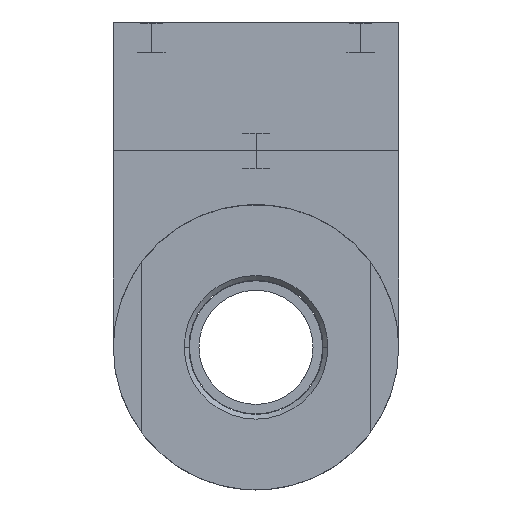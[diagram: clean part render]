
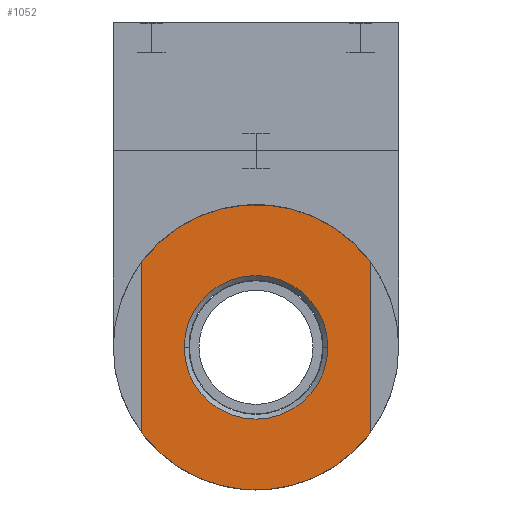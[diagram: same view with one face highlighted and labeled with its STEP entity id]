
A CAD part, front view. The second image highlights one B-rep face of the part: STEP entity #1052.
In plain terms, the highlighted planar face has unit normal (0, -1, 0) as drawn and (0, 0, 1) by its records, which use the part's own axes.
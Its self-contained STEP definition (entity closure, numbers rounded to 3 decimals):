
#1052=ADVANCED_FACE('1:1855',(#2146,#2147),#2148,.T.);
#2146=FACE_OUTER_BOUND('',#3367,.T.);
#2147=FACE_BOUND('',#3368,.T.);
#2148=PLANE('',#3369);
#3367=EDGE_LOOP('',(#5297,#5298,#5299,#5300));
#3368=EDGE_LOOP('',(#5301,#5302));
#3369=AXIS2_PLACEMENT_3D('',#5303,#5304,#5305);
#5297=ORIENTED_EDGE('',*,*,#7273,.T.);
#5298=ORIENTED_EDGE('',*,*,#7239,.F.);
#5299=ORIENTED_EDGE('',*,*,#7173,.F.);
#5300=ORIENTED_EDGE('',*,*,#7788,.F.);
#5301=ORIENTED_EDGE('',*,*,#7789,.F.);
#5302=ORIENTED_EDGE('',*,*,#7092,.F.);
#5303=CARTESIAN_POINT('',(0.0,0.0,17.5));
#5304=DIRECTION('',(0.0,0.0,1.0));
#5305=DIRECTION('',(1.0,0.0,0.0));
#7092=EDGE_CURVE('',#8588,#8590,#8591,.T.);
#7173=EDGE_CURVE('',#8731,#8726,#8733,.T.);
#7239=EDGE_CURVE('',#8726,#8850,#8851,.F.);
#7273=EDGE_CURVE('',#8907,#8850,#8910,.T.);
#7788=EDGE_CURVE('',#8907,#8731,#9759,.F.);
#7789=EDGE_CURVE('',#8590,#8588,#9760,.T.);
#8588=VERTEX_POINT('',#11006);
#8590=VERTEX_POINT('',#11009);
#8591=CIRCLE('',#11010,7.55);
#8726=VERTEX_POINT('',#11272);
#8731=VERTEX_POINT('',#11279);
#8733=LINE('',#11282,#11283);
#8850=VERTEX_POINT('',#11437);
#8851=CIRCLE('',#11438,15.0);
#8907=VERTEX_POINT('',#11513);
#8910=LINE('',#11518,#11519);
#9759=CIRCLE('',#12988,15.0);
#9760=CIRCLE('',#12989,7.55);
#11006=CARTESIAN_POINT('',(-7.539,-0.191,17.5));
#11009=CARTESIAN_POINT('',(7.561,-0.191,17.5));
#11010=AXIS2_PLACEMENT_3D('',#14966,#14967,#14968);
#11272=CARTESIAN_POINT('',(12.011,-9.191,17.5));
#11279=CARTESIAN_POINT('',(12.011,8.809,17.5));
#11282=CARTESIAN_POINT('',(12.011,-4.596,17.5));
#11283=VECTOR('',#15076,1.0);
#11437=CARTESIAN_POINT('',(-11.989,-9.191,17.5));
#11438=AXIS2_PLACEMENT_3D('',#15189,#15190,#15191);
#11513=CARTESIAN_POINT('',(-11.989,8.809,17.5));
#11518=CARTESIAN_POINT('',(-11.989,-4.596,17.5));
#11519=VECTOR('',#15231,1.0);
#12988=AXIS2_PLACEMENT_3D('',#15976,#15977,#15978);
#12989=AXIS2_PLACEMENT_3D('',#15979,#15980,#15981);
#14966=CARTESIAN_POINT('',(0.011,-0.191,17.5));
#14967=DIRECTION('',(0.0,0.0,1.0));
#14968=DIRECTION('',(-1.0,0.0,0.0));
#15076=DIRECTION('',(0.,-1.0,0.0));
#15189=CARTESIAN_POINT('',(0.011,-0.191,17.5));
#15190=DIRECTION('',(0.0,0.0,1.0));
#15191=DIRECTION('',(1.0,0.0,0.0));
#15231=DIRECTION('',(0.,-1.0,0.0));
#15976=CARTESIAN_POINT('',(0.011,-0.191,17.5));
#15977=DIRECTION('',(0.0,0.0,1.0));
#15978=DIRECTION('',(1.0,0.0,0.0));
#15979=CARTESIAN_POINT('',(0.011,-0.191,17.5));
#15980=DIRECTION('',(0.0,0.0,1.0));
#15981=DIRECTION('',(-1.0,0.0,0.0));
